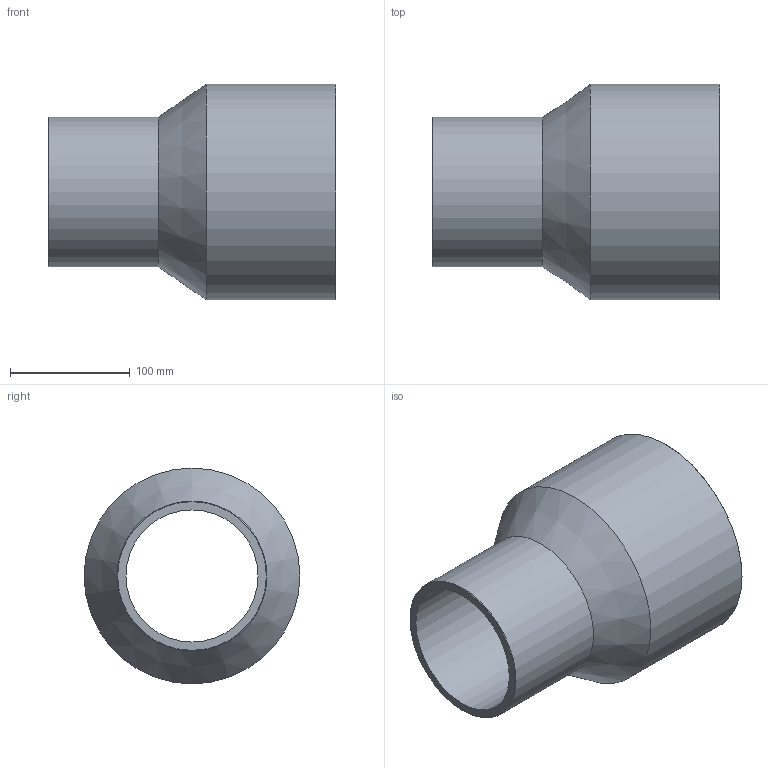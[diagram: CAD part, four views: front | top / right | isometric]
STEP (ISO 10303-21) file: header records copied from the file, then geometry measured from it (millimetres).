
FILE_DESCRIPTION(/* description */ ('Unknown'),/* implementation_level */ '2;1');
FILE_NAME(/* name */ 'RP180125B',/* time_stamp */ '2021-09-17T11:33:38+02:00',/* author */ ('Unknown'),/* organization */ ('Unknown'),/* preprocessor_version */ 'ST-DEVELOPER v16.7',/* originating_system */ 'Solid Edge',/* authorisation */ 'Unknown');
FILE_SCHEMA (('AUTOMOTIVE_DESIGN {1 0 10303 214 3 1 1}'));
Length unit declared in the file: millimetre
Products named in the file (1): RP180125B
Bounding box: 240 x 180 x 180 mm (x, y, z)
Volume: 1087465.3 mm3; surface area: 233106.3 mm2
Topology: 1 solids, 1 shells, 10 faces, 19 edges, 11 vertices
Faces by surface type: cylinder 4, cone 4, plane 2
Full cylindrical faces by diameter (mm): 110.2 x1, 125 x1, 158.6 x1, 180 x1
Entity records: 238 total; most frequent: DIRECTION 42, CARTESIAN_POINT 31, AXIS2_PLACEMENT_3D 21, ORIENTED_EDGE 20, EDGE_LOOP 20, FACE_BOUND 20, EDGE_CURVE 10, VERTEX_POINT 10
